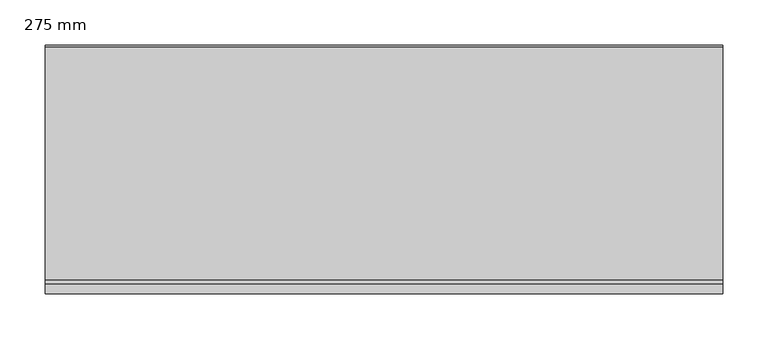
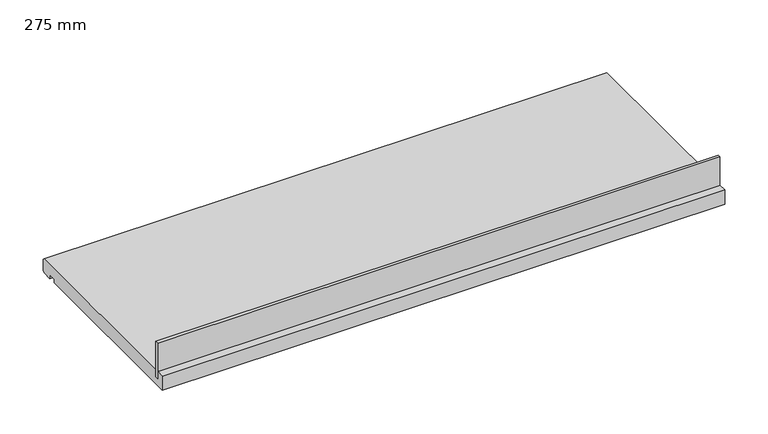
"""IFC4 building model written with IfcOpenShell, lengths in millimetres: proxy geometry, 400_35_NS_raamdorpel_kunststof_klik : 275 mm."""

from ifc_helpers import new_model, si_unit, frame, origin, place, context, project, spatial, polyline, outline, extrude, source, transform, mapped, element, save


def proxy_275_mm_176d9016(model_context):
    return source(origin(), model_context, "Body", "SweptSolid", [
        extrude(outline(polyline([(-375.0, 11.0), (-375.0, 15.0), (375.0, 15.0), (375.0, 11.0), (-375.0, 11.0)])), frame((0.0, 0.0, 10.0), z_axis=(0.0, 0.0, 1.0), x_axis=(1.0, 0.0, 0.0)), (0.0, 0.0, 1.0), 50.0),
        extrude(outline(polyline([(15.0, 20.0), (273.0, 20.0), (275.0, 18.0), (275.0, 2.0), (273.0, 0.0), (260.0, 0.0), (260.0, 5.0), (250.0, 5.0), (250.0, 0.0), (0.0, 0.0), (0.0, 20.0), (11.0, 20.0), (11.0, 10.0), (15.0, 10.0), (15.0, 20.0)])), frame((-375.0, 0.0, 0.0), z_axis=(1.0, 0.0, 0.0), x_axis=(0.0, 1.0, 0.0)), (0.0, 0.0, 1.0), 750.0),
    ])


if __name__ == "__main__":
    model = new_model("IFC4")
    model_context = context("Model", 3, world=origin())
    ifc_project = project(units=[si_unit("LENGTHUNIT", "METRE", prefix="MILLI")], contexts=[model_context])
    site = spatial("IfcSite", under=ifc_project)
    building = spatial("IfcBuilding", under=site)
    placement = place(None, origin())
    proxy_275_mm_shape = proxy_275_mm_176d9016(model_context)
    element("IfcBuildingElementProxy", 1, Name="400_35_NS_raamdorpel_kunststof_klik : 275 mm", ObjectType="400_35_NS_raamdorpel_kunststof_klik : 275 mm", at=placement, inside=building, context=model_context, shape_type="MappedRepresentation", body=[
        mapped(proxy_275_mm_shape, transform((0.0, 0.0, 0.0), x_axis=(1.0, 0.0, 0.0), y_axis=(0.0, 1.0, 0.0), z_axis=(0.0, 0.0, 1.0))),
    ])
    save(model, "model.ifc")
